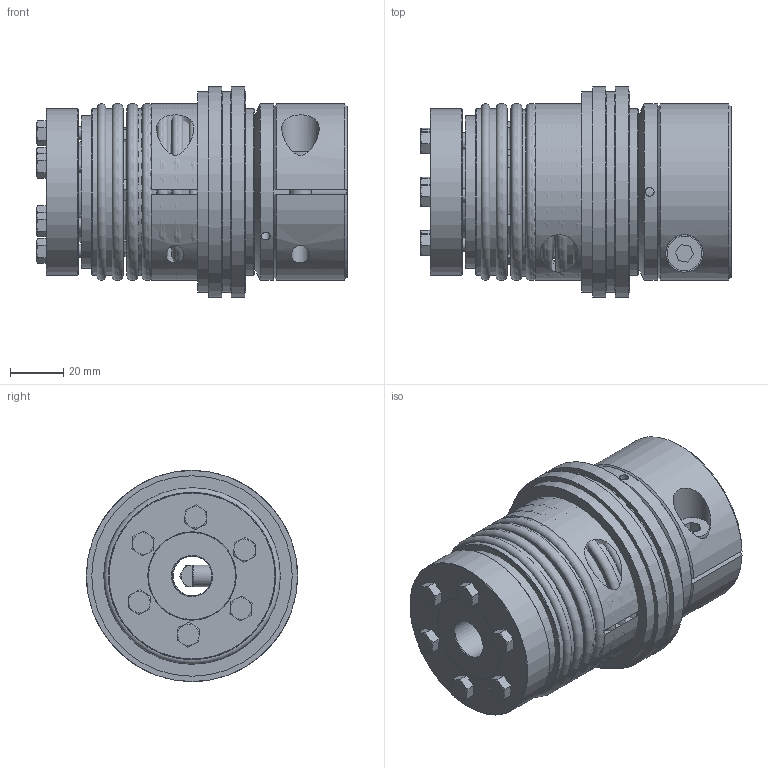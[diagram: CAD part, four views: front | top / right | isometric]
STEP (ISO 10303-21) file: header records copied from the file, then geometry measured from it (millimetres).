
FILE_DESCRIPTION( ( 'Unknown' ), '1' );
FILE_NAME( 'C:/Dokumente und Einstellungen/SKarpstein/Desktop/Korrigierte 3D Modelle/KBK-B-AK/KBK-BAK-60-115.stp', 'Unknown', ( 'Unknown' ), ( 'Unknown' ), 'XStep 1.0', 'Unknown', ' ' );
FILE_SCHEMA( ( 'automotive_design' ) );
Length unit declared in the file: millimetre
Products named in the file (13): Assem1; Assem2; Assem3; Zylinderschraube DIN 912_4; DR60_Standard; Hex Screw GradeC_DIN_ISO 4018 - M5 x 25-NN; BA60_Standard; Stellring 60; Druckring 60; KBK L-K-60 Grundkörper; Klemmnabe 60; Flansch BK60; BL60_Standard_0
Bounding box: 116.2 x 79 x 79 mm (x, y, z)
Volume: 608812.8 mm3; surface area: 283968.2 mm2
Topology: 34 solids, 34 shells, 596 faces, 1217 edges, 777 vertices
Faces by surface type: plane 260, cone 153, cylinder 131, torus 52
Full cylindrical faces by diameter (mm): 3.242 x6, 4 x6, 4.2 x18, 5 x13, 5.5 x18, 6.647 x2, 8 x3, 8.5 x2, 13 x3, 14 x2, 15 x5, 32 x2, 33 x2, 35 x4, 37.937 x3, 42 x2, 46 x4, 46.5 x2, 47 x2, 56.3 x4, 57.3 x4, 61.3 x2, 62.5 x6, 66 x2, 75 x4, 79 x2
Entity records: 5126 total; most frequent: CARTESIAN_POINT 1203, DIRECTION 796, ORIENTED_EDGE 504, AXIS2_PLACEMENT_3D 375, EDGE_LOOP 362, FACE_OUTER_BOUND 256, EDGE_CURVE 252, VERTEX_POINT 220
